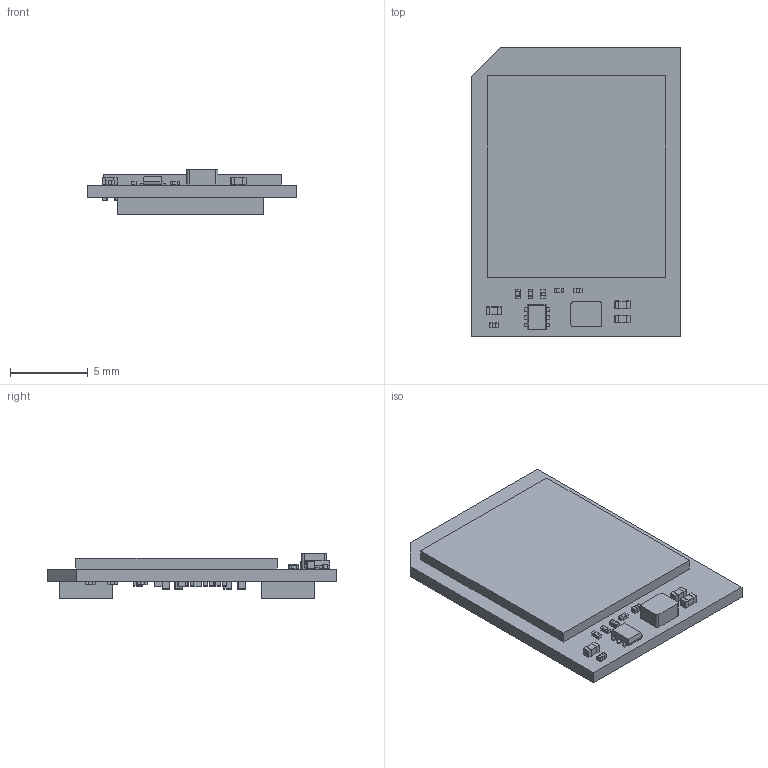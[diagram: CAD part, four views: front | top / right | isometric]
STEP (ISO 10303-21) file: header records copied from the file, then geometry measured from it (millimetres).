
FILE_DESCRIPTION((''),'2;1');
FILE_NAME('RA022_V110_20250415_ASM','2025-05-27T13:49:06',('111'),(''),'CREO PARAMETRIC BY PTC INC, 2025010','CREO PARAMETRIC BY PTC INC, 2025010','');
FILE_SCHEMA(('CONFIG_CONTROL_DESIGN','SHAPE_APPEARANCE_LAYERS_GROUPS'));
Length unit declared in the file: millimetre
Products named in the file (11): RA022_V110_20250415; R0402; R0201; L_2016; C0201; C0402; SOT563; BTB_SM30_0D4_1D0; BTB_SM34_0D4_1D0; BGA153_0D5_11D5; RA022_V110_20250415_ASM
Assembly tree (40 placements, depth 2):
  RA022_V110_20250415_ASM
    RA022_V110_20250415
    R0402  x4
    R0201  x7
    L_2016
    C0201  x14
    C0402  x9
    SOT563
    BTB_SM30_0D4_1D0
    BTB_SM34_0D4_1D0
    BGA153_0D5_11D5
Bounding box: 13.5 x 18.65 x 2.9 mm (x, y, z)
Volume: 364.5 mm3; surface area: 1189.5 mm2
Topology: 34 solids, 48 shells, 1863 faces, 4326 edges, 2210 vertices
Faces by surface type: cylinder 798, plane 677, sphere 332, torus 56
Entity records: 10690 total; most frequent: DIRECTION 1643, CARTESIAN_POINT 1633, ORIENTED_EDGE 1398, COLOUR_RGB 1121, EDGE_CURVE 715, AXIS2_PLACEMENT_3D 576, VECTOR 491, LINE 491
